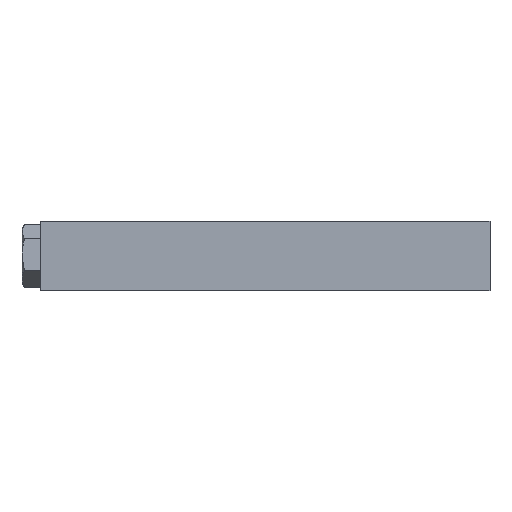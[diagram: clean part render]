
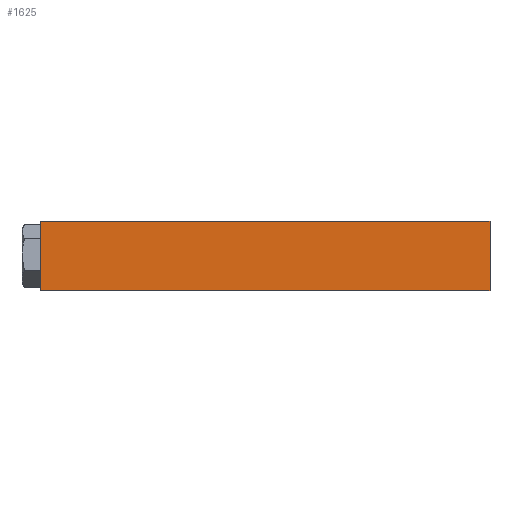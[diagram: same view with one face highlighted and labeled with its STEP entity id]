
A CAD part, front view. The second image highlights one B-rep face of the part: STEP entity #1625.
In plain terms, the highlighted planar face has unit normal (0, -1, 0).
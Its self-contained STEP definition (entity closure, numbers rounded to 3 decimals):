
#943 = EDGE_CURVE ( 'NONE', #1093, #1037, #5770, .T. ) ;
#1037 = VERTEX_POINT ( 'NONE', #5975 ) ;
#1052 = VERTEX_POINT ( 'NONE', #5955 ) ;
#1059 = EDGE_CURVE ( 'NONE', #1052, #1060, #6004, .T. ) ;
#1060 = VERTEX_POINT ( 'NONE', #5956 ) ;
#1093 = VERTEX_POINT ( 'NONE', #6068 ) ;
#1598 = ORIENTED_EDGE ( 'NONE', *, *, #943, .T. ) ;
#1600 = ORIENTED_EDGE ( 'NONE', *, *, #1059, .F. ) ;
#1604 = ORIENTED_EDGE ( 'NONE', *, *, #1613, .T. ) ;
#1613 = EDGE_CURVE ( 'NONE', #1052, #1093, #6962, .T. ) ;
#1616 = ORIENTED_EDGE ( 'NONE', *, *, #1626, .F. ) ;
#1619 = EDGE_LOOP ( 'NONE', ( #1598, #1616, #1600, #1604 ) ) ;
#1625 = ADVANCED_FACE ( 'NONE', ( #6968 ), #6957, .F. ) ;
#1626 = EDGE_CURVE ( 'NONE', #1060, #1037, #6949, .T. ) ;
#5761 = DIRECTION ( 'NONE',  ( 0., 0., -1. ) ) ;
#5764 = VECTOR ( 'NONE', #5761, 1000. ) ;
#5769 = CARTESIAN_POINT ( 'NONE',  ( 0., 0., 0. ) ) ;
#5770 = LINE ( 'NONE', #5769, #5764 ) ;
#5955 = CARTESIAN_POINT ( 'NONE',  ( 260., 0., 0. ) ) ;
#5956 = CARTESIAN_POINT ( 'NONE',  ( 260., 0., -40. ) ) ;
#5975 = CARTESIAN_POINT ( 'NONE',  ( 0., 0., -40. ) ) ;
#5996 = DIRECTION ( 'NONE',  ( 0., 0., -1. ) ) ;
#5997 = VECTOR ( 'NONE', #5996, 1000. ) ;
#5998 = CARTESIAN_POINT ( 'NONE',  ( 260., 0., 0. ) ) ;
#6004 = LINE ( 'NONE', #5998, #5997 ) ;
#6068 = CARTESIAN_POINT ( 'NONE',  ( 0., 0., 0. ) ) ;
#6921 = AXIS2_PLACEMENT_3D ( 'NONE', #6963, #6961, #6947 ) ;
#6947 = DIRECTION ( 'NONE',  ( 0., 0., 1. ) ) ;
#6949 = LINE ( 'NONE', #7014, #7013 ) ;
#6957 = PLANE ( 'NONE',  #6921 ) ;
#6958 = DIRECTION ( 'NONE',  ( -1., 0., 0. ) ) ;
#6959 = VECTOR ( 'NONE', #6958, 1000. ) ;
#6960 = CARTESIAN_POINT ( 'NONE',  ( 260., 0., 0. ) ) ;
#6961 = DIRECTION ( 'NONE',  ( 0., 1., 0. ) ) ;
#6962 = LINE ( 'NONE', #6960, #6959 ) ;
#6963 = CARTESIAN_POINT ( 'NONE',  ( 260., 0., 0. ) ) ;
#6968 = FACE_OUTER_BOUND ( 'NONE', #1619, .T. ) ;
#7012 = DIRECTION ( 'NONE',  ( -1., 0., 0. ) ) ;
#7013 = VECTOR ( 'NONE', #7012, 1000. ) ;
#7014 = CARTESIAN_POINT ( 'NONE',  ( 260., 0., -40. ) ) ;
